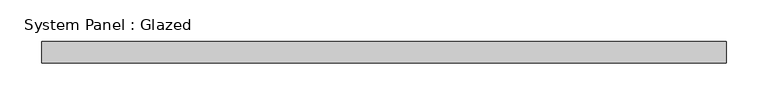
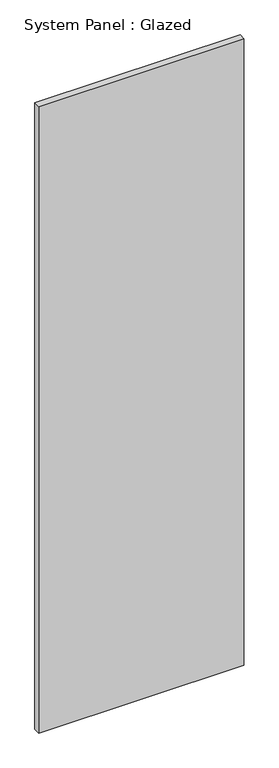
"""IFC4 building model written with IfcOpenShell, lengths in millimetres: plate geometry, System Panel : Glazed."""

from ifc_helpers import new_model, si_unit, origin, origin_with_axes, place, context, project, spatial, polyline, outline, extrude, source, transform, mapped, element, save


def system_panel_glazed_dd8a9739(model_context):
    return source(origin(), model_context, "Body", "SweptSolid", [
        extrude(outline(polyline([(409.2333008, 19.05), (-409.2333008, 19.05), (-409.2333008, 44.45), (409.2333008, 44.45), (409.2333008, 19.05)])), origin_with_axes(), (0.0, 0.0, 1.0), 2640.780647),
    ])


if __name__ == "__main__":
    model = new_model("IFC4")
    model_context = context("Model", 3, world=origin())
    ifc_project = project(units=[si_unit("LENGTHUNIT", "METRE", prefix="MILLI")], contexts=[model_context])
    site = spatial("IfcSite", under=ifc_project)
    building = spatial("IfcBuilding", under=site)
    placement = place(None, origin())
    system_panel_glazed_shape = system_panel_glazed_dd8a9739(model_context)
    element("IfcPlate", 1, ObjectType="System Panel : Glazed", at=placement, inside=building, context=model_context, shape_type="MappedRepresentation", body=[
        mapped(system_panel_glazed_shape, transform((0.0, 0.0, 0.0), x_axis=(1.0, 0.0, 0.0), y_axis=(0.0, 1.0, 0.0), z_axis=(0.0, 0.0, 1.0))),
    ])
    save(model, "model.ifc")
